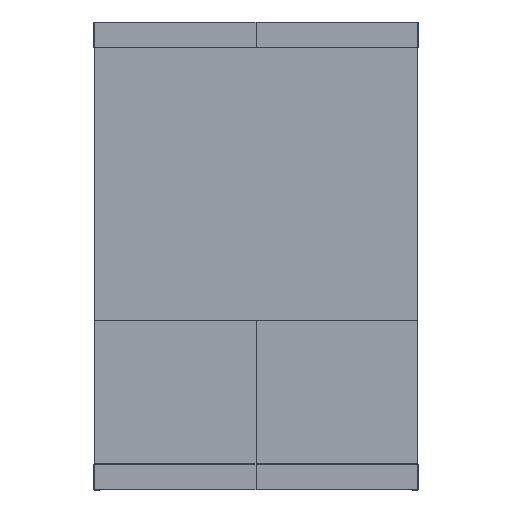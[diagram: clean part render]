
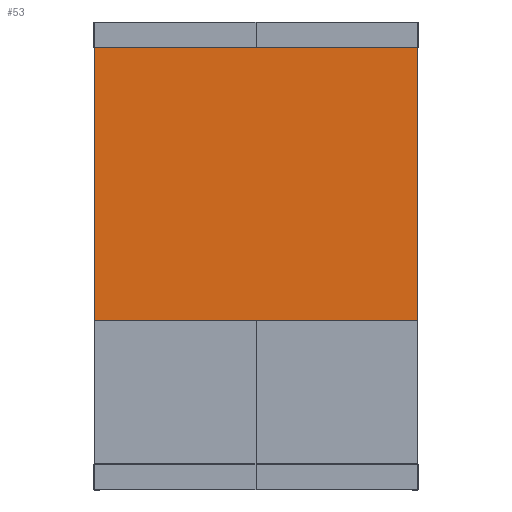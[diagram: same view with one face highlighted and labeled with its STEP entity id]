
A CAD part, top view. The second image highlights one B-rep face of the part: STEP entity #53.
In plain terms, the highlighted planar face has unit normal (0, 0, 1).
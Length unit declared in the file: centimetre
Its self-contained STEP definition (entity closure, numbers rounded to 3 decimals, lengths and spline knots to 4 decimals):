
#53=ADVANCED_FACE($,(#219),#1949,.T.);
#219=FACE_OUTER_BOUND($,#385,.T.);
#385=EDGE_LOOP($,(#574,#575,#576,#577));
#574=ORIENTED_EDGE($,*,*,#1315,.T.);
#575=ORIENTED_EDGE($,*,*,#1320,.F.);
#576=ORIENTED_EDGE($,*,*,#1321,.F.);
#577=ORIENTED_EDGE($,*,*,#1325,.F.);
#1315=EDGE_CURVE($,#1695,#1694,#2111,.T.);
#1320=EDGE_CURVE($,#1700,#1694,#2116,.T.);
#1321=EDGE_CURVE($,#1701,#1700,#2117,.T.);
#1325=EDGE_CURVE($,#1695,#1701,#2121,.T.);
#1694=VERTEX_POINT($,#2954);
#1695=VERTEX_POINT($,#2955);
#1700=VERTEX_POINT($,#2960);
#1701=VERTEX_POINT($,#2961);
#1949=PLANE($,#2583);
#2111=B_SPLINE_CURVE_WITH_KNOTS($,3,(#2920,#2921,#2922,#2923),.UNSPECIFIED.,
.F.,.F.,(4,4),(91.9,181.8),.UNSPECIFIED.);
#2116=B_SPLINE_CURVE_WITH_KNOTS($,1,(#2936,#2937),.UNSPECIFIED.,.F.,.F.,
(2,2),(0.,76.),.UNSPECIFIED.);
#2117=B_SPLINE_CURVE_WITH_KNOTS($,1,(#2938,#2939),.UNSPECIFIED.,.F.,.F.,
(2,2),(0.,89.9),.UNSPECIFIED.);
#2121=B_SPLINE_CURVE_WITH_KNOTS($,1,(#2946,#2947),.UNSPECIFIED.,.F.,.F.,
(2,2),(90.,166.),.UNSPECIFIED.);
#2583=AXIS2_PLACEMENT_3D($,#2953,#2752,$);
#2752=DIRECTION($,(0.,0.,1.));
#2920=CARTESIAN_POINT($,(449.95,-54.,74.51));
#2921=CARTESIAN_POINT($,(419.9833,-54.,74.51));
#2922=CARTESIAN_POINT($,(390.0167,-54.,74.51));
#2923=CARTESIAN_POINT($,(360.05,-54.,74.51));
#2936=CARTESIAN_POINT($,(360.05,-130.,74.51));
#2937=CARTESIAN_POINT($,(360.05,-54.,74.51));
#2938=CARTESIAN_POINT($,(449.95,-130.,74.51));
#2939=CARTESIAN_POINT($,(360.05,-130.,74.51));
#2946=CARTESIAN_POINT($,(449.95,-54.,74.51));
#2947=CARTESIAN_POINT($,(449.95,-130.,74.51));
#2953=CARTESIAN_POINT($,(360.05,-130.,74.51));
#2954=CARTESIAN_POINT($,(360.05,-54.,74.51));
#2955=CARTESIAN_POINT($,(449.95,-54.,74.51));
#2960=CARTESIAN_POINT($,(360.05,-130.,74.51));
#2961=CARTESIAN_POINT($,(449.95,-130.,74.51));
